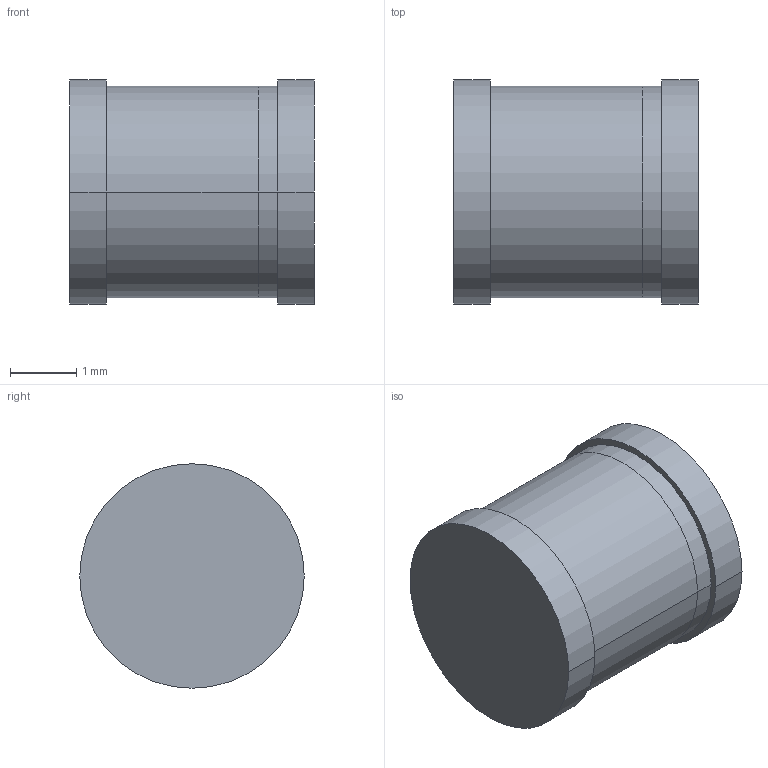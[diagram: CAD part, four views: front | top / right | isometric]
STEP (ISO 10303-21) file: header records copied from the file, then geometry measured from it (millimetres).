
FILE_DESCRIPTION (( 'STEP AP214' ), '1' );
FILE_NAME ('1N4148UR-1.STEP', '2021-06-04T07:56:24', ( '' ), ( '' ), 'SwSTEP 2.0', 'SolidWorks 2018', '' );
FILE_SCHEMA (( 'AUTOMOTIVE_DESIGN' ));
Length unit declared in the file: millimetre
Products named in the file (1): 1N4148UR-1
Bounding box: 3.71 x 3.4 x 3.4 mm (x, y, z)
Volume: 31 mm3; surface area: 58.2 mm2
Topology: 1 solids, 1 shells, 12 faces, 22 edges, 14 vertices
Faces by surface type: cylinder 8, plane 4
Entity records: 470 total; most frequent: DIRECTION 62, CARTESIAN_POINT 49, ORIENTED_EDGE 44, AXIS2_PLACEMENT_3D 27, EDGE_CURVE 22, UNCERTAINTY_MEASURE_WITH_UNIT 15, PRESENTATION_LAYER_ASSIGNMENT 14, PRESENTATION_STYLE_ASSIGNMENT 14
